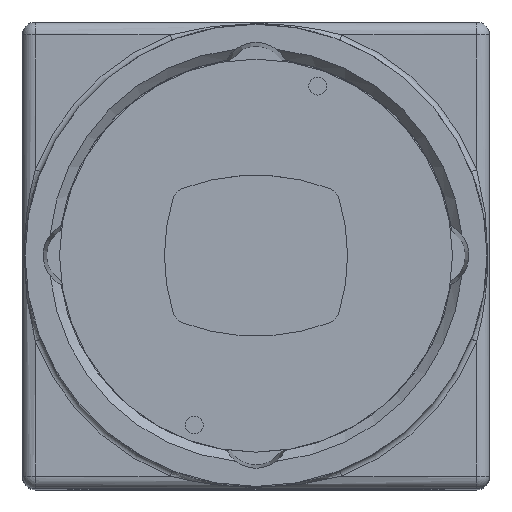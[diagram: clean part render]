
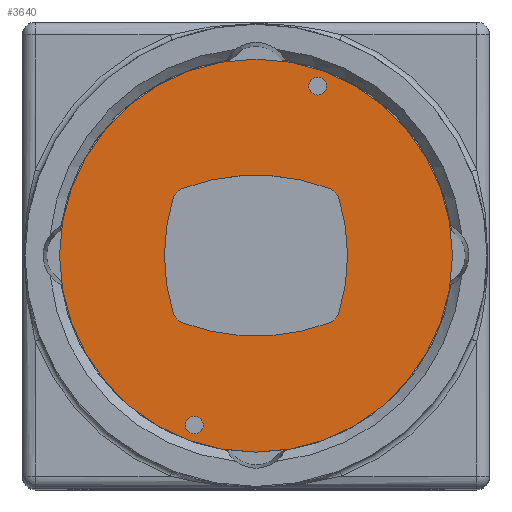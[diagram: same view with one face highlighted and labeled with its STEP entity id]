
A CAD part, top view. The second image highlights one B-rep face of the part: STEP entity #3640.
In plain terms, the highlighted planar face has unit normal (0, 0, 1).
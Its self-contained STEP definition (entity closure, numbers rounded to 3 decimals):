
#3640 = ADVANCED_FACE( '', ( #8788, #8789, #8790, #8791 ), #8792, .F. );
#8788 = FACE_BOUND( '', #16695, .T. );
#8789 = FACE_BOUND( '', #16696, .T. );
#8790 = FACE_BOUND( '', #16697, .T. );
#8791 = FACE_OUTER_BOUND( '', #16698, .T. );
#8792 = PLANE( '', #16699 );
#16695 = EDGE_LOOP( '', ( #27893 ) );
#16696 = EDGE_LOOP( '', ( #27894 ) );
#16697 = EDGE_LOOP( '', ( #27895, #27896, #27897, #27898, #27899, #27900, #27901, #27902 ) );
#16698 = EDGE_LOOP( '', ( #27903 ) );
#16699 = AXIS2_PLACEMENT_3D( '', #27904, #27905, #27906 );
#27893 = ORIENTED_EDGE( '', *, *, #37988, .T. );
#27894 = ORIENTED_EDGE( '', *, *, #38439, .T. );
#27895 = ORIENTED_EDGE( '', *, *, #38379, .T. );
#27896 = ORIENTED_EDGE( '', *, *, #38640, .T. );
#27897 = ORIENTED_EDGE( '', *, *, #38641, .T. );
#27898 = ORIENTED_EDGE( '', *, *, #38642, .T. );
#27899 = ORIENTED_EDGE( '', *, *, #36084, .T. );
#27900 = ORIENTED_EDGE( '', *, *, #38053, .T. );
#27901 = ORIENTED_EDGE( '', *, *, #38643, .T. );
#27902 = ORIENTED_EDGE( '', *, *, #38644, .T. );
#27903 = ORIENTED_EDGE( '', *, *, #38645, .F. );
#27904 = CARTESIAN_POINT( '', ( 1.907, 5.239, 5.8 ) );
#27905 = DIRECTION( '', ( 0., 0., -1. ) );
#27906 = DIRECTION( '', ( -1., 0., 0. ) );
#36084 = EDGE_CURVE( '', #40783, #40784, #40785, .T. );
#37988 = EDGE_CURVE( '', #43891, #43891, #43892, .T. );
#38053 = EDGE_CURVE( '', #40784, #43986, #43987, .T. );
#38379 = EDGE_CURVE( '', #44484, #44482, #44485, .T. );
#38439 = EDGE_CURVE( '', #44571, #44571, #44572, .T. );
#38640 = EDGE_CURVE( '', #44482, #44854, #44855, .T. );
#38641 = EDGE_CURVE( '', #44854, #44856, #44857, .T. );
#38642 = EDGE_CURVE( '', #44856, #40783, #44858, .T. );
#38643 = EDGE_CURVE( '', #43986, #44859, #44860, .T. );
#38644 = EDGE_CURVE( '', #44859, #44484, #44861, .T. );
#38645 = EDGE_CURVE( '', #44862, #44862, #44863, .T. );
#40783 = VERTEX_POINT( '', #47520 );
#40784 = VERTEX_POINT( '', #47521 );
#40785 = CIRCLE( '', #47522, 12. );
#43891 = VERTEX_POINT( '', #52309 );
#43892 = CIRCLE( '', #52310, 0.55 );
#43986 = VERTEX_POINT( '', #52451 );
#43987 = CIRCLE( '', #52452, 1. );
#44482 = VERTEX_POINT( '', #53228 );
#44484 = VERTEX_POINT( '', #53231 );
#44485 = CIRCLE( '', #53232, 12. );
#44571 = VERTEX_POINT( '', #53358 );
#44572 = CIRCLE( '', #53359, 0.55 );
#44854 = VERTEX_POINT( '', #53843 );
#44855 = CIRCLE( '', #53844, 1. );
#44856 = VERTEX_POINT( '', #53845 );
#44857 = CIRCLE( '', #53846, 13. );
#44858 = CIRCLE( '', #53847, 1. );
#44859 = VERTEX_POINT( '', #53848 );
#44860 = CIRCLE( '', #53849, 13. );
#44861 = CIRCLE( '', #53850, 1. );
#44862 = VERTEX_POINT( '', #53851 );
#44863 = CIRCLE( '', #53852, 12.2 );
#47520 = CARTESIAN_POINT( '', ( -5.153, -3.537, 5.8 ) );
#47521 = CARTESIAN_POINT( '', ( -5.153, 3.537, 5.8 ) );
#47522 = AXIS2_PLACEMENT_3D( '', #57998, #57999, #58000 );
#52309 = CARTESIAN_POINT( '', ( -3.831, -11.075, 5.8 ) );
#52310 = AXIS2_PLACEMENT_3D( '', #60232, #60233, #60234 );
#52451 = CARTESIAN_POINT( '', ( -4.548, 4.179, 5.8 ) );
#52452 = AXIS2_PLACEMENT_3D( '', #60298, #60299, #60300 );
#53228 = CARTESIAN_POINT( '', ( 5.153, -3.537, 5.8 ) );
#53231 = CARTESIAN_POINT( '', ( 5.153, 3.537, 5.8 ) );
#53232 = AXIS2_PLACEMENT_3D( '', #60703, #60704, #60705 );
#53358 = CARTESIAN_POINT( '', ( 3.831, 9.975, 5.8 ) );
#53359 = AXIS2_PLACEMENT_3D( '', #60770, #60771, #60772 );
#53843 = CARTESIAN_POINT( '', ( 4.548, -4.179, 5.8 ) );
#53844 = AXIS2_PLACEMENT_3D( '', #60991, #60992, #60993 );
#53845 = CARTESIAN_POINT( '', ( -4.548, -4.179, 5.8 ) );
#53846 = AXIS2_PLACEMENT_3D( '', #60994, #60995, #60996 );
#53847 = AXIS2_PLACEMENT_3D( '', #60997, #60998, #60999 );
#53848 = CARTESIAN_POINT( '', ( 4.548, 4.179, 5.8 ) );
#53849 = AXIS2_PLACEMENT_3D( '', #61000, #61001, #61002 );
#53850 = AXIS2_PLACEMENT_3D( '', #61003, #61004, #61005 );
#53851 = CARTESIAN_POINT( '', ( -12.2, 0., 5.8 ) );
#53852 = AXIS2_PLACEMENT_3D( '', #61006, #61007, #61008 );
#57998 = CARTESIAN_POINT( '', ( 6.314, 0., 5.8 ) );
#57999 = DIRECTION( '', ( 0., 0., -1. ) );
#58000 = DIRECTION( '', ( 1., 0., 0. ) );
#60232 = CARTESIAN_POINT( '', ( -3.831, -10.525, 5.8 ) );
#60233 = DIRECTION( '', ( 0., 0., -1. ) );
#60234 = DIRECTION( '', ( 0., -1., 0. ) );
#60298 = CARTESIAN_POINT( '', ( -4.198, 3.242, 5.8 ) );
#60299 = DIRECTION( '', ( 0., 0., -1. ) );
#60300 = DIRECTION( '', ( -1., 0., 0. ) );
#60703 = CARTESIAN_POINT( '', ( -6.314, 0., 5.8 ) );
#60704 = DIRECTION( '', ( 0., 0., -1. ) );
#60705 = DIRECTION( '', ( -1., 0., 0. ) );
#60770 = CARTESIAN_POINT( '', ( 3.831, 10.525, 5.8 ) );
#60771 = DIRECTION( '', ( 0., 0., -1. ) );
#60772 = DIRECTION( '', ( 0., -1., 0. ) );
#60991 = CARTESIAN_POINT( '', ( 4.198, -3.242, 5.8 ) );
#60992 = DIRECTION( '', ( 0., 0., -1. ) );
#60993 = DIRECTION( '', ( -1., 0., 0. ) );
#60994 = CARTESIAN_POINT( '', ( 0., 8., 5.8 ) );
#60995 = DIRECTION( '', ( 0., 0., -1. ) );
#60996 = DIRECTION( '', ( 1., 0., 0. ) );
#60997 = CARTESIAN_POINT( '', ( -4.198, -3.242, 5.8 ) );
#60998 = DIRECTION( '', ( 0., 0., -1. ) );
#60999 = DIRECTION( '', ( -1., 0., 0. ) );
#61000 = CARTESIAN_POINT( '', ( 0., -8., 5.8 ) );
#61001 = DIRECTION( '', ( 0., 0., -1. ) );
#61002 = DIRECTION( '', ( 1., 0., 0. ) );
#61003 = CARTESIAN_POINT( '', ( 4.198, 3.242, 5.8 ) );
#61004 = DIRECTION( '', ( 0., 0., -1. ) );
#61005 = DIRECTION( '', ( -1., 0., 0. ) );
#61006 = CARTESIAN_POINT( '', ( 0., 0., 5.8 ) );
#61007 = DIRECTION( '', ( 0., 0., -1. ) );
#61008 = DIRECTION( '', ( -1., 0., 0. ) );
